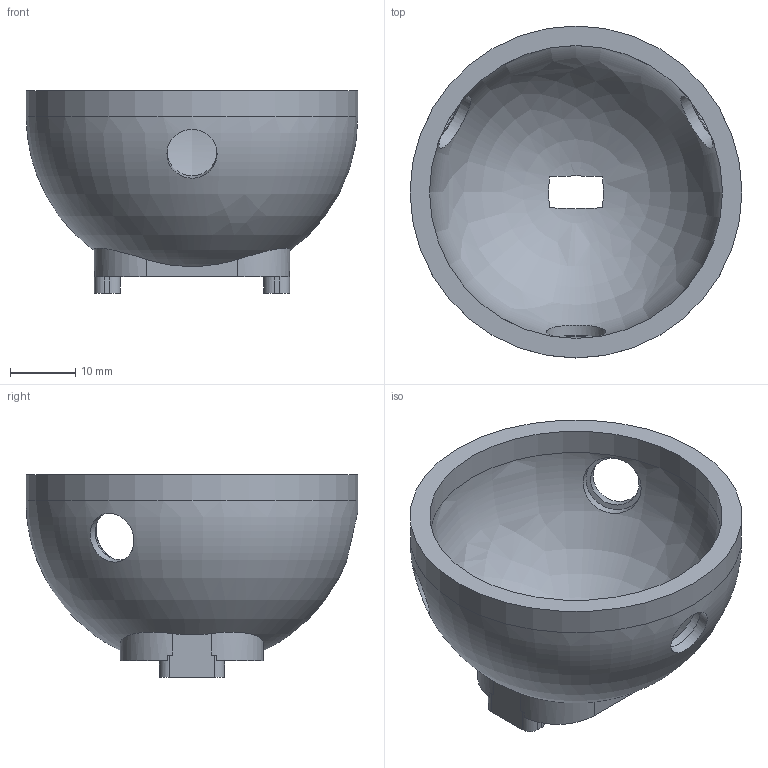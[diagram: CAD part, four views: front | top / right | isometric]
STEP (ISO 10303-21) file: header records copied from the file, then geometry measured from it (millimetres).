
FILE_DESCRIPTION(('Open CASCADE Model'),'2;1');
FILE_NAME('Open CASCADE Shape Model','2026-05-31T19:42:41',('Author'),( 'Open CASCADE'),'Open CASCADE STEP processor 7.6','Open CASCADE 7.6' ,'Unknown');
FILE_SCHEMA(('AP242_MANAGED_MODEL_BASED_3D_ENGINEERING_MIM_LF. {1 0 10303 442 1 1 4 }'));
Length unit declared in the file: millimetre
Products named in the file (1): Open CASCADE STEP translator 7.6 1
Bounding box: 51 x 51 x 31.1 mm (x, y, z)
Volume: 12620.9 mm3; surface area: 9365 mm2
Topology: 1 solids, 1 shells, 71 faces, 194 edges, 128 vertices
Faces by surface type: plane 35, cylinder 28, bspline 4, revolution 2, cone 2
Full cylindrical faces by diameter (mm): 2.05 x2, 7.7 x3, 9.2 x3, 45 x1, 51 x1
Entity records: 8150 total; most frequent: CARTESIAN_POINT 4332, DIRECTION 702, ORIENTED_EDGE 384, PCURVE 384, DEFINITIONAL_REPRESENTATION 384, LINE 382, VECTOR 382, EDGE_CURVE 192
